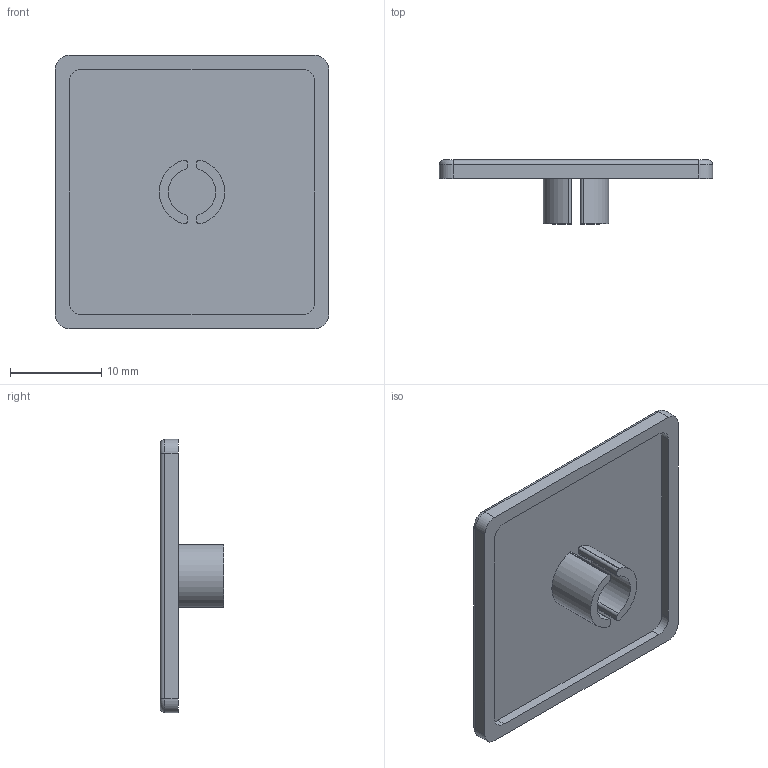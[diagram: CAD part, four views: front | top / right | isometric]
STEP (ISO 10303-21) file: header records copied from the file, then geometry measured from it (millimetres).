
FILE_DESCRIPTION (( 'STEP AP214' ), '1' );
FILE_NAME ('4002 Òîðöåâàÿ çàãëóøêà 30x30.STEP', '2017-08-10T06:11:42', ( '' ), ( '' ), 'SwSTEP 2.0', 'SolidWorks 2014', '' );
FILE_SCHEMA (( 'AUTOMOTIVE_DESIGN' ));
Length unit declared in the file: millimetre
Products named in the file (2): 4002 Òîðöåâàÿ çàãëóøêà 30x30
Bounding box: 30 x 7 x 30 mm (x, y, z)
Volume: 1166.6 mm3; surface area: 2338.5 mm2
Topology: 1 solids, 1 shells, 47 faces, 118 edges, 76 vertices
Faces by surface type: cylinder 26, plane 17, torus 4
Entity records: 1473 total; most frequent: DIRECTION 272, CARTESIAN_POINT 243, ORIENTED_EDGE 236, EDGE_CURVE 118, AXIS2_PLACEMENT_3D 105, VERTEX_POINT 76, LINE 62, VECTOR 62
